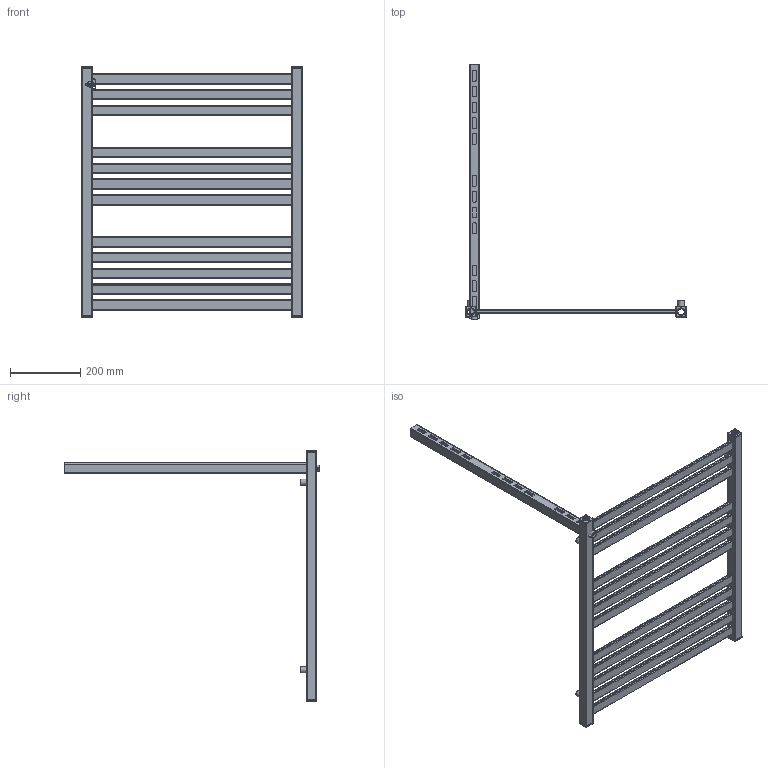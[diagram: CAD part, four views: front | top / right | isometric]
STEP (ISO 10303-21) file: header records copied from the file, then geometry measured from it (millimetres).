
FILE_DESCRIPTION( ( 'Unknown' ), '1' );
FILE_NAME( 'D:/Alplast sp. j/Witryna zespoBu - Projekty/Archiwum/Grzejniki Archiwum/Projekty/STANDARD/AK-EP/AK2-600EP.stp', 'Unknown', ( 'Unknown' ), ( 'Unknown' ), 'PSStep 10.1', 'Unknown', ' ' );
FILE_SCHEMA( ( 'AUTOMOTIVE_DESIGN { 1 0 10303 214 1 1 1 1 }' ) );
Length unit declared in the file: millimetre
Products named in the file (5): Assem1; zaslepka kwadrat otwor; AK2-EPEL; kana³  poziomy 30x10  600; mocowanie
Bounding box: 630 x 729 x 715.13 mm (x, y, z)
Volume: 1161168.2 mm3; surface area: 1554234.5 mm2
Topology: 26 solids, 26 shells, 664 faces, 1806 edges, 1204 vertices
Faces by surface type: plane 374, cylinder 280, torus 10
Full cylindrical faces by diameter (mm): 16 x5, 18 x5, 18.631 x5, 23 x5
Entity records: 6526 total; most frequent: DIRECTION 934, CARTESIAN_POINT 899, ORIENTED_EDGE 860, EDGE_CURVE 430, AXIS2_PLACEMENT_3D 325, VERTEX_POINT 290, LINE 284, VECTOR 284
